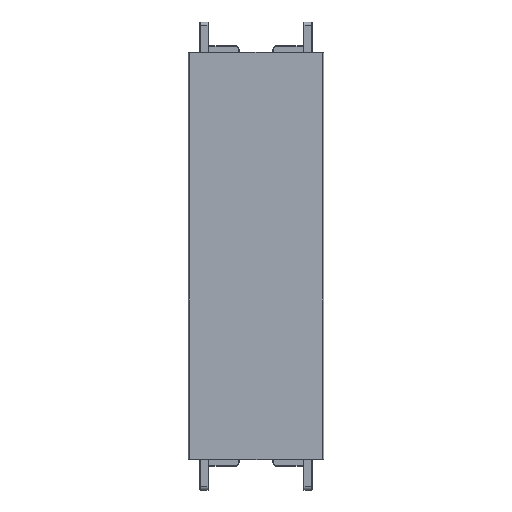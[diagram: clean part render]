
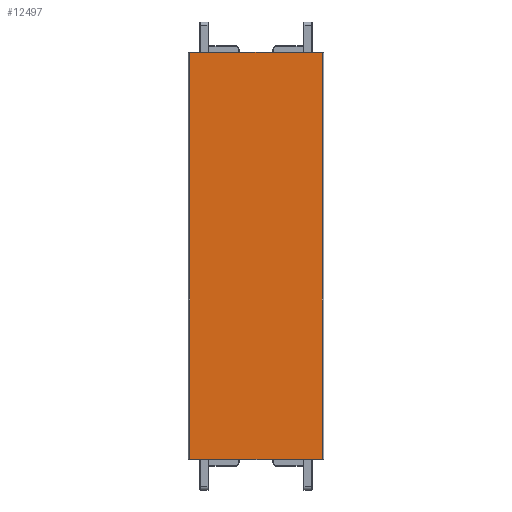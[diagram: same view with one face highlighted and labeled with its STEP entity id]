
A CAD part, top view. The second image highlights one B-rep face of the part: STEP entity #12497.
In plain terms, the highlighted planar face has unit normal (0, 0, 1) as drawn and (0, 0, -1) by its records, which use the part's own axes.
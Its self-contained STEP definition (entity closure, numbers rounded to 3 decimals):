
#152 = FACE_OUTER_BOUND ( 'NONE', #8837, .T. ) ;
#788 = CARTESIAN_POINT ( 'NONE',  ( 0., 59.9, -2.5 ) ) ;
#1274 = ORIENTED_EDGE ( 'NONE', *, *, #13490, .F. ) ;
#8413 = LINE ( 'NONE', #40281, #57933 ) ;
#8837 = EDGE_LOOP ( 'NONE', ( #34995, #25988, #43880, #1274 ) ) ;
#11988 = DIRECTION ( 'NONE',  ( 0., 1., 0. ) ) ;
#12497 = ADVANCED_FACE ( 'NONE', ( #152 ), #71901, .F. ) ;
#13490 = EDGE_CURVE ( 'NONE', #70724, #31285, #8413, .T. ) ;
#21968 = EDGE_CURVE ( 'NONE', #31285, #83841, #26654, .T. ) ;
#22189 = CARTESIAN_POINT ( 'NONE',  ( 19.5, 59.9, -2.5 ) ) ;
#24016 = CARTESIAN_POINT ( 'NONE',  ( -19.5, 59.9, -2.5 ) ) ;
#24670 = VECTOR ( 'NONE', #70495, 1000. ) ;
#25785 = VERTEX_POINT ( 'NONE', #22189 ) ;
#25988 = ORIENTED_EDGE ( 'NONE', *, *, #39674, .F. ) ;
#26654 = LINE ( 'NONE', #52617, #24670 ) ;
#27051 = DIRECTION ( 'NONE',  ( -1., 0., 0. ) ) ;
#30233 = EDGE_CURVE ( 'NONE', #25785, #70724, #33892, .T. ) ;
#31285 = VERTEX_POINT ( 'NONE', #64441 ) ;
#33649 = DIRECTION ( 'NONE',  ( 1., 0., 0. ) ) ;
#33892 = LINE ( 'NONE', #788, #39768 ) ;
#34995 = ORIENTED_EDGE ( 'NONE', *, *, #30233, .F. ) ;
#38307 = LINE ( 'NONE', #70205, #39380 ) ;
#39380 = VECTOR ( 'NONE', #11988, 1000. ) ;
#39674 = EDGE_CURVE ( 'NONE', #83841, #25785, #38307, .T. ) ;
#39768 = VECTOR ( 'NONE', #27051, 1000. ) ;
#40027 = DIRECTION ( 'NONE',  ( 0., 0., 1. ) ) ;
#40281 = CARTESIAN_POINT ( 'NONE',  ( -19.5, 0., -2.5 ) ) ;
#43880 = ORIENTED_EDGE ( 'NONE', *, *, #21968, .F. ) ;
#52617 = CARTESIAN_POINT ( 'NONE',  ( 0., -59.9, -2.5 ) ) ;
#57933 = VECTOR ( 'NONE', #60634, 1000. ) ;
#60634 = DIRECTION ( 'NONE',  ( 0., -1., 0. ) ) ;
#60723 = CARTESIAN_POINT ( 'NONE',  ( 19.5, -59.9, -2.5 ) ) ;
#64441 = CARTESIAN_POINT ( 'NONE',  ( -19.5, -59.9, -2.5 ) ) ;
#65378 = AXIS2_PLACEMENT_3D ( 'NONE', #78662, #40027, #33649 ) ;
#70205 = CARTESIAN_POINT ( 'NONE',  ( 19.5, 0., -2.5 ) ) ;
#70495 = DIRECTION ( 'NONE',  ( 1., 0., 0. ) ) ;
#70724 = VERTEX_POINT ( 'NONE', #24016 ) ;
#71901 = PLANE ( 'NONE',  #65378 ) ;
#78662 = CARTESIAN_POINT ( 'NONE',  ( 0., 0., -2.5 ) ) ;
#83841 = VERTEX_POINT ( 'NONE', #60723 ) ;
